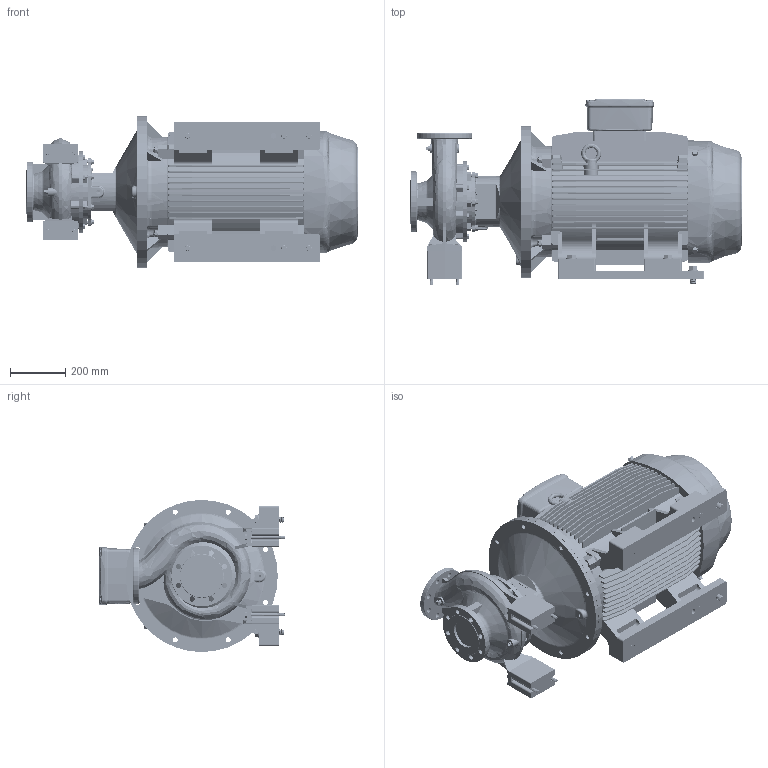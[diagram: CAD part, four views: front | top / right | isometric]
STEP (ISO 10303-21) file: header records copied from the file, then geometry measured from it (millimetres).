
FILE_DESCRIPTION (( 'STEP AP214' ), '1' );
FILE_NAME ('GSD2 80-200_55 & 75_(250SM)_W21.STEP', '2026-07-08T03:04:25', ( '' ), ( '' ), 'SwSTEP 2.0', 'SolidWorks 2024', '' );
FILE_SCHEMA (( 'AUTOMOTIVE_DESIGN' ));
Length unit declared in the file: millimetre
Products named in the file (13): Parametric Flat Washer_M20; Parametric Flat Washer_M12; Parametric bolt and washer_SFT-A337B; 250S_M2P IE3_W21T_B35; Parametric bolt_SFT-A337B; GSD2  80-200_55 & 75_(250SM)_W21; Parametric bolt_SFT-A417B; A407B Bolt_407; CGS11-5311_2_3_4_5_CGS11-5314; 80-200-250S_M_ﾃﾞﾌｫﾙﾄ; CGS11-5311_2_3_4_5_CGS11-5315; Parametric bolt and washer_SFT-A417B; 100x30 - CGSDA-5291
Assembly tree (26 placements, depth 3):
  GSD2  80-200_55 & 75_(250SM)_W21
    80-200-250S_M_ﾃﾞﾌｫﾙﾄ
    100x30 - CGSDA-5291  x2
    CGS11-5311_2_3_4_5_CGS11-5315  x4
    CGS11-5311_2_3_4_5_CGS11-5314  x2
    250S_M2P IE3_W21T_B35
    A407B Bolt_407  x2
    Parametric Flat Washer_M20  x2
    Parametric bolt and washer_SFT-A417B  x4
      Parametric bolt_SFT-A417B
      Parametric Flat Washer_M20
    Parametric bolt and washer_SFT-A337B  x4
      Parametric bolt_SFT-A337B
      Parametric Flat Washer_M12
Bounding box: 1200.5 x 675.5 x 550 mm (x, y, z)
Volume: 140596379.3 mm3; surface area: 5518594 mm2
Topology: 37 solids, 42 shells, 4293 faces, 11364 edges, 7272 vertices
Faces by surface type: plane 1709, cylinder 1512, cone 465, torus 310, bspline 281, sphere 16
Entity records: 166558 total; most frequent: CARTESIAN_POINT 79104, ORIENTED_EDGE 19210, DIRECTION 17309, EDGE_CURVE 9605, AXIS2_PLACEMENT_3D 6350, VERTEX_POINT 6127, LINE 4609, VECTOR 4609
